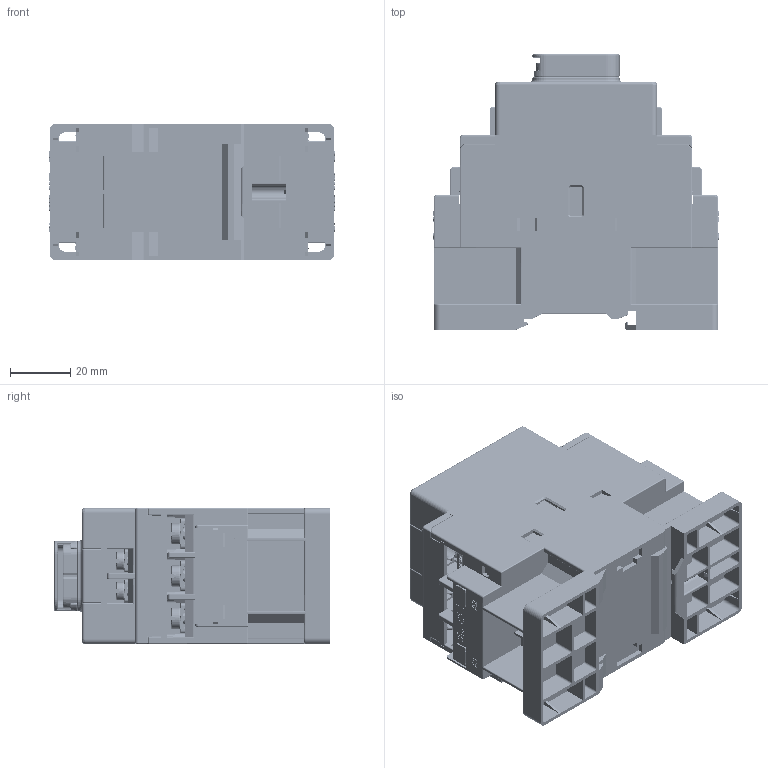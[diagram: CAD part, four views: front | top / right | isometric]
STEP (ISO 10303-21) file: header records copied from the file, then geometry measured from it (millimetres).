
FILE_DESCRIPTION(/* description */ (''),/* implementation_level */ '2;1');
FILE_NAME(/* name */ 'HGC18AF.stp',/* time_stamp */ '2017-09-21T10:45:29+09:00',/* author */ (''),/* organization */ (''),/* preprocessor_version */ 'ST-DEVELOPER v15',/* originating_system */ 'SIEMENS PLM Software NX 9.0',/* authorisation */ '');
FILE_SCHEMA (('CONFIG_CONTROL_DESIGN'));
Products named in the file (4): MAIN_PROTECTION_COVER_18A293193476; DUST_PROTECTION_COVER_HGC40A477; aux_protection_cover_11_hgc40a_stp478; HGC18AF_stp
Assembly tree (5 placements, depth 2):
  HGC18AF_stp
    aux_protection_cover_11_hgc40a_stp478  x2
    DUST_PROTECTION_COVER_HGC40A477
    MAIN_PROTECTION_COVER_18A293193476  x2
Bounding box: 94.8 x 91.15 x 45 mm (x, y, z)
Volume: 235828.4 mm3; surface area: 99807.6 mm2
Topology: 55 solids, 84 shells, 9522 faces, 26033 edges, 16911 vertices
Faces by surface type: plane 6482, cylinder 1745, extrusion 543, torus 480, cone 129, sphere 113, bspline 30
Entity records: 283372 total; most frequent: CARTESIAN_POINT 59369, ORIENTED_EDGE 48044, DIRECTION 43836, EDGE_CURVE 24022, VECTOR 19170, LINE 18627, VERTEX_POINT 15597, AXIS2_PLACEMENT_3D 12333
